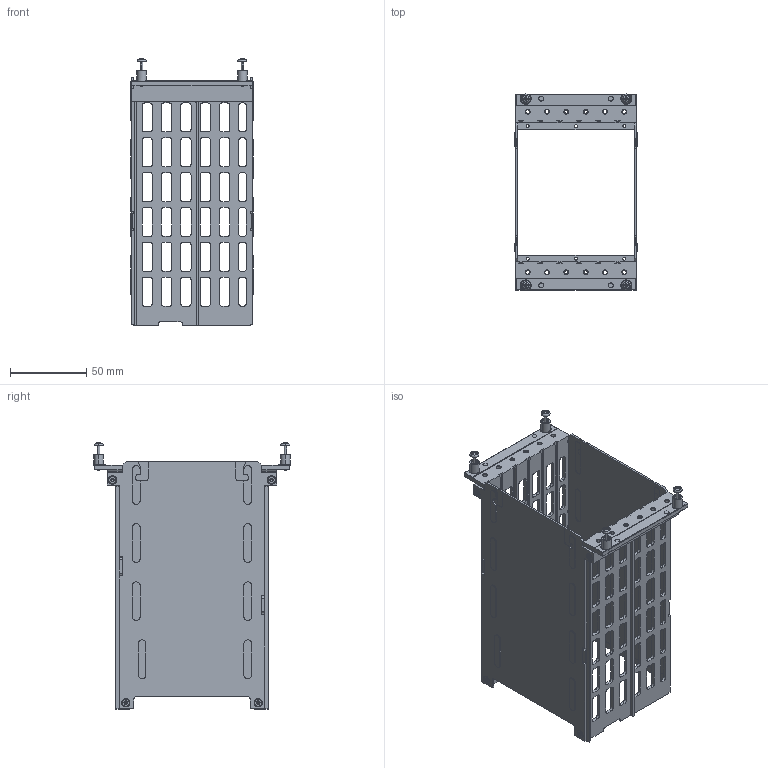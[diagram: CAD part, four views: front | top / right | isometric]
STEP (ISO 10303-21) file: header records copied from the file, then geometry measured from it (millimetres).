
FILE_DESCRIPTION((''),'2;1');
FILE_NAME('CU_PXI-2800','2010-05-24T',('jjorden'),(''),'PRO/ENGINEER BY PARAMETRIC TECHNOLOGY CORPORATION, 2006080','PRO/ENGINEER BY PARAMETRIC TECHNOLOGY CORPORATION, 2006080','');
FILE_SCHEMA(('CONFIG_CONTROL_DESIGN'));
Products named in the file (1): CU_PXI-2800
Bounding box: 80.67 x 128.7 x 175.04 mm (x, y, z)
Volume: 93931.8 mm3; surface area: 145043.4 mm2
Topology: 6 solids, 6 shells, 1841 faces, 5042 edges, 3242 vertices
Faces by surface type: plane 847, cylinder 774, cone 124, bspline 48, torus 40, sphere 8
Entity records: 73450 total; most frequent: CARTESIAN_POINT 26225, ORIENTED_EDGE 10020, DIRECTION 9616, EDGE_CURVE 5010, VERTEX_POINT 3318, AXIS2_PLACEMENT_3D 3297, VECTOR 3022, LINE 3022
